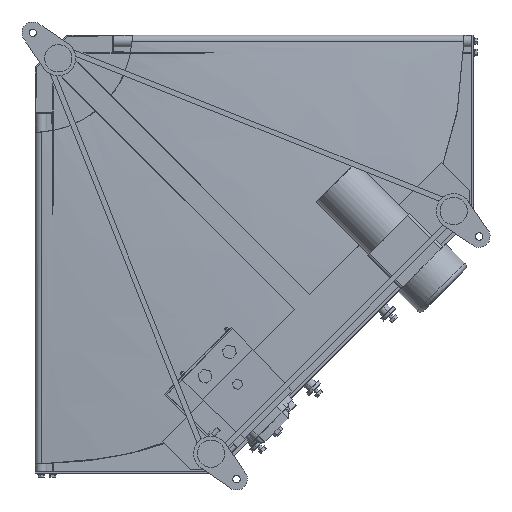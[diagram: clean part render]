
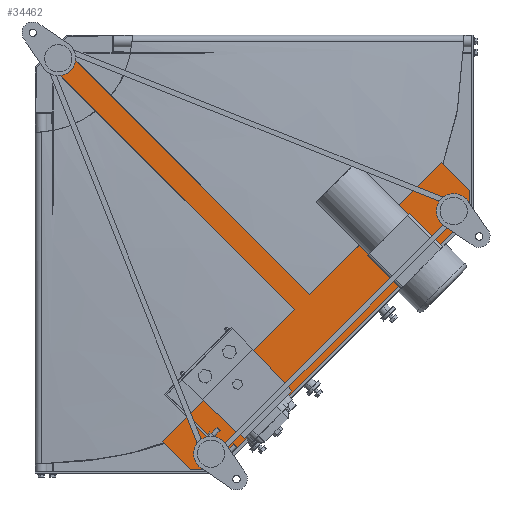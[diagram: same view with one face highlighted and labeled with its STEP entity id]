
A CAD part, front view. The second image highlights one B-rep face of the part: STEP entity #34462.
In plain terms, the highlighted planar face has unit normal (0, -1, 0).
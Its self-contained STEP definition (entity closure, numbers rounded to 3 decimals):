
#1355 = EDGE_CURVE ( 'NONE', #23356, #35395, #36476, .T. ) ;
#1497 = ORIENTED_EDGE ( 'NONE', *, *, #14990, .F. ) ;
#1729 = VECTOR ( 'NONE', #31491, 1000. ) ;
#1879 = VERTEX_POINT ( 'NONE', #19934 ) ;
#2064 = DIRECTION ( 'NONE',  ( -0.707, 0., -0.707 ) ) ;
#3057 = CARTESIAN_POINT ( 'NONE',  ( 42.073, -167.5, -15.203 ) ) ;
#3268 = ORIENTED_EDGE ( 'NONE', *, *, #33496, .F. ) ;
#3821 = CARTESIAN_POINT ( 'NONE',  ( 709.935, -167.5, -222.032 ) ) ;
#5422 = DIRECTION ( 'NONE',  ( 0., 0., -1. ) ) ;
#5596 = FACE_OUTER_BOUND ( 'NONE', #25121, .T. ) ;
#5688 = PLANE ( 'NONE',  #29581 ) ;
#6974 = LINE ( 'NONE', #29695, #9865 ) ;
#7557 = CARTESIAN_POINT ( 'NONE',  ( 222.032, -167.5, -709.935 ) ) ;
#8021 = VERTEX_POINT ( 'NONE', #3057 ) ;
#8661 = VECTOR ( 'NONE', #38285, 1000. ) ;
#9762 = VECTOR ( 'NONE', #33728, 1000. ) ;
#9865 = VECTOR ( 'NONE', #20719, 1000. ) ;
#10220 = LINE ( 'NONE', #18753, #9762 ) ;
#10587 = VERTEX_POINT ( 'NONE', #38806 ) ;
#10673 = EDGE_CURVE ( 'NONE', #25969, #29557, #6974, .T. ) ;
#12360 = DIRECTION ( 'NONE',  ( 0.707, 0., 0.707 ) ) ;
#12973 = LINE ( 'NONE', #32358, #8661 ) ;
#13015 = EDGE_CURVE ( 'NONE', #29557, #26101, #10220, .T. ) ;
#13300 = EDGE_CURVE ( 'NONE', #26101, #8021, #29818, .T. ) ;
#13559 = VECTOR ( 'NONE', #27359, 1000. ) ;
#13913 = ORIENTED_EDGE ( 'NONE', *, *, #27409, .F. ) ;
#13961 = VECTOR ( 'NONE', #12360, 1000. ) ;
#14990 = EDGE_CURVE ( 'NONE', #10587, #22702, #17821, .T. ) ;
#16240 = VECTOR ( 'NONE', #27177, 1000. ) ;
#16935 = DIRECTION ( 'NONE',  ( -0.707, 0., 0.707 ) ) ;
#17161 = VECTOR ( 'NONE', #16935, 1000. ) ;
#17821 = LINE ( 'NONE', #38731, #18282 ) ;
#17825 = ORIENTED_EDGE ( 'NONE', *, *, #35104, .F. ) ;
#18282 = VECTOR ( 'NONE', #2064, 1000. ) ;
#18753 = CARTESIAN_POINT ( 'NONE',  ( 15.203, -167.5, -42.073 ) ) ;
#19201 = CARTESIAN_POINT ( 'NONE',  ( 42.073, -167.5, -15.203 ) ) ;
#19204 = EDGE_CURVE ( 'NONE', #8021, #23356, #39562, .T. ) ;
#19934 = CARTESIAN_POINT ( 'NONE',  ( 271.529, -167.5, -759.433 ) ) ;
#19958 = CARTESIAN_POINT ( 'NONE',  ( 759.433, -167.5, -271.529 ) ) ;
#20048 = ORIENTED_EDGE ( 'NONE', *, *, #13300, .F. ) ;
#20526 = CARTESIAN_POINT ( 'NONE',  ( 222.032, -167.5, -709.935 ) ) ;
#20719 = DIRECTION ( 'NONE',  ( 0.707, 0., 0.707 ) ) ;
#22702 = VERTEX_POINT ( 'NONE', #27198 ) ;
#22828 = LINE ( 'NONE', #27156, #29014 ) ;
#23226 = VERTEX_POINT ( 'NONE', #19958 ) ;
#23356 = VERTEX_POINT ( 'NONE', #26617 ) ;
#23728 = DIRECTION ( 'NONE',  ( 0., -1., 0. ) ) ;
#24520 = CARTESIAN_POINT ( 'NONE',  ( 15.203, -167.5, -42.073 ) ) ;
#25121 = EDGE_LOOP ( 'NONE', ( #36162, #29281, #27636, #3268, #1497, #17825, #13913, #35184, #38267, #20048 ) ) ;
#25293 = LINE ( 'NONE', #33352, #16240 ) ;
#25969 = VERTEX_POINT ( 'NONE', #20526 ) ;
#26101 = VERTEX_POINT ( 'NONE', #24520 ) ;
#26617 = CARTESIAN_POINT ( 'NONE',  ( 479.418, -167.5, -452.548 ) ) ;
#27156 = CARTESIAN_POINT ( 'NONE',  ( 759.433, -167.5, -313.955 ) ) ;
#27177 = DIRECTION ( 'NONE',  ( -1., 0., 0. ) ) ;
#27198 = CARTESIAN_POINT ( 'NONE',  ( 313.955, -167.5, -759.433 ) ) ;
#27359 = DIRECTION ( 'NONE',  ( 0.707, 0., 0.707 ) ) ;
#27409 = EDGE_CURVE ( 'NONE', #35395, #23226, #12973, .T. ) ;
#27636 = ORIENTED_EDGE ( 'NONE', *, *, #37876, .F. ) ;
#28604 = CARTESIAN_POINT ( 'NONE',  ( 452.548, -167.5, -479.418 ) ) ;
#29014 = VECTOR ( 'NONE', #30507, 1000. ) ;
#29281 = ORIENTED_EDGE ( 'NONE', *, *, #10673, .F. ) ;
#29557 = VERTEX_POINT ( 'NONE', #28604 ) ;
#29581 = AXIS2_PLACEMENT_3D ( 'NONE', #39011, #23728, #5422 ) ;
#29695 = CARTESIAN_POINT ( 'NONE',  ( 222.032, -167.5, -709.935 ) ) ;
#29818 = LINE ( 'NONE', #33394, #13559 ) ;
#30507 = DIRECTION ( 'NONE',  ( 0., 0., -1. ) ) ;
#31491 = DIRECTION ( 'NONE',  ( 0.707, 0., -0.707 ) ) ;
#32358 = CARTESIAN_POINT ( 'NONE',  ( 709.935, -167.5, -222.032 ) ) ;
#33352 = CARTESIAN_POINT ( 'NONE',  ( 271.529, -167.5, -759.433 ) ) ;
#33394 = CARTESIAN_POINT ( 'NONE',  ( 15.203, -167.5, -42.073 ) ) ;
#33496 = EDGE_CURVE ( 'NONE', #22702, #1879, #25293, .T. ) ;
#33728 = DIRECTION ( 'NONE',  ( -0.707, 0., 0.707 ) ) ;
#34462 = ADVANCED_FACE ( 'NONE', ( #5596 ), #5688, .T. ) ;
#35104 = EDGE_CURVE ( 'NONE', #23226, #10587, #22828, .T. ) ;
#35184 = ORIENTED_EDGE ( 'NONE', *, *, #1355, .F. ) ;
#35395 = VERTEX_POINT ( 'NONE', #3821 ) ;
#35810 = LINE ( 'NONE', #7557, #17161 ) ;
#36162 = ORIENTED_EDGE ( 'NONE', *, *, #13015, .F. ) ;
#36314 = CARTESIAN_POINT ( 'NONE',  ( 222.032, -167.5, -709.935 ) ) ;
#36476 = LINE ( 'NONE', #36314, #13961 ) ;
#37876 = EDGE_CURVE ( 'NONE', #1879, #25969, #35810, .T. ) ;
#38267 = ORIENTED_EDGE ( 'NONE', *, *, #19204, .F. ) ;
#38285 = DIRECTION ( 'NONE',  ( 0.707, 0., -0.707 ) ) ;
#38731 = CARTESIAN_POINT ( 'NONE',  ( 313.955, -167.5, -759.433 ) ) ;
#38806 = CARTESIAN_POINT ( 'NONE',  ( 759.433, -167.5, -313.955 ) ) ;
#39011 = CARTESIAN_POINT ( 'NONE',  ( 0., -167.5, 0. ) ) ;
#39562 = LINE ( 'NONE', #19201, #1729 ) ;
